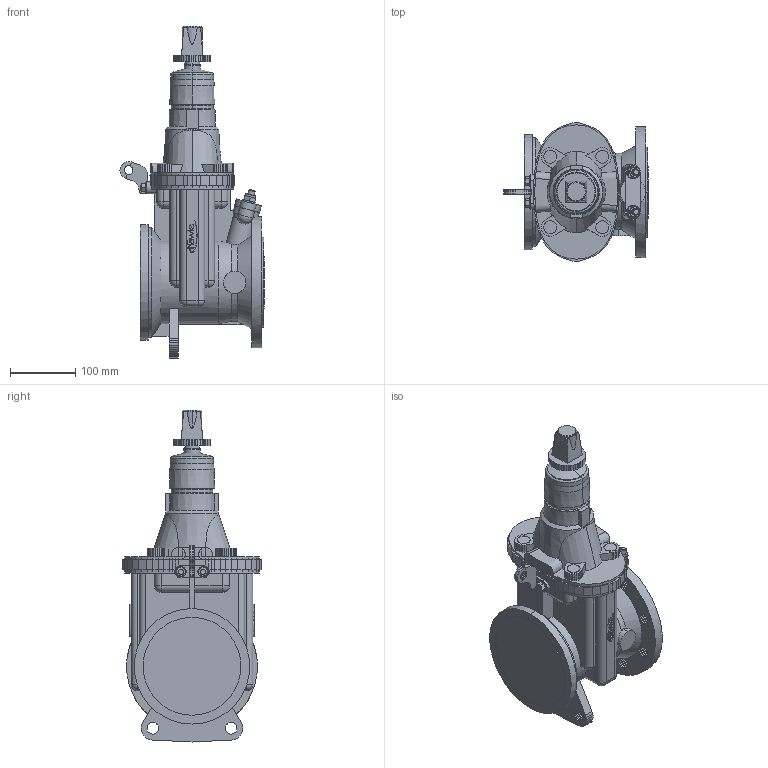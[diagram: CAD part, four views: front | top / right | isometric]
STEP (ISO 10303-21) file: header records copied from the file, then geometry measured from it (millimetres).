
FILE_DESCRIPTION(('no description'),'unknown implementation level');
FILE_NAME('Hawle_4190E2_3D.stp',' ',('pit-cup GmbH'),('CADClick - KiM GmbH - www.kimweb.de'),'unknown preprocess','ACIS','unknown authorization');
FILE_SCHEMA(('automotive_design'));
Length unit declared in the file: millimetre
Products named in the file (12): 1; 2; 3; 4; 5; 6; 7; 8; 9; 10; 11; 12
Bounding box: 220.89 x 213 x 509 mm (x, y, z)
Volume: 5858388.5 mm3; surface area: 428151.6 mm2
Topology: 12 solids, 16 shells, 1691 faces, 4703 edges, 3061 vertices
Faces by surface type: plane 1462, cylinder 164, cone 48, sphere 15, torus 2
Entity records: 109485 total; most frequent: CARTESIAN_POINT 13436, STYLED_ITEM 9453, PRESENTATION_STYLE_ASSIGNMENT 9453, COLOUR_RGB 9453, ORIENTED_EDGE 9378, DIRECTION 8533, EDGE_CURVE 4689, CURVE_STYLE 4689
